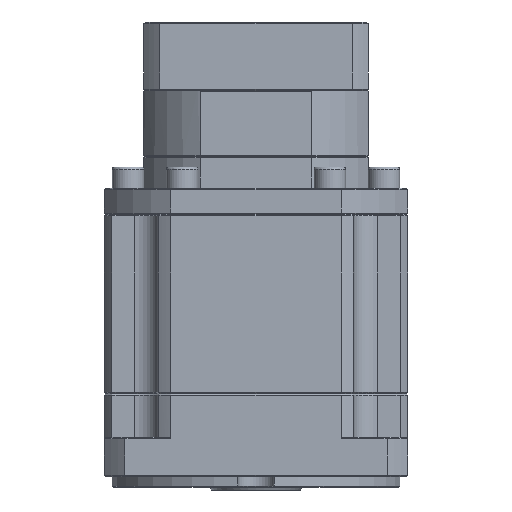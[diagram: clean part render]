
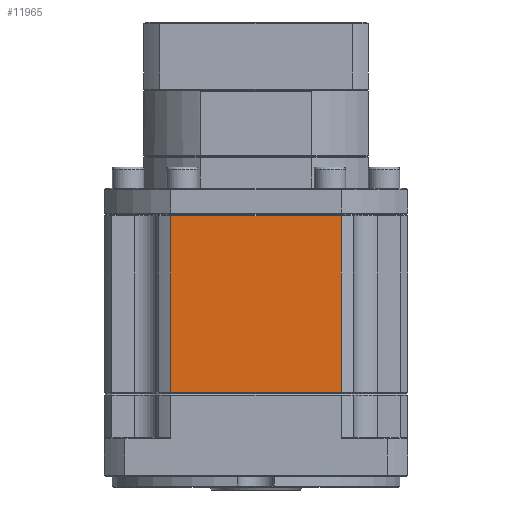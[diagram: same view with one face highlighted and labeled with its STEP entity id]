
A CAD part, left-side view. The second image highlights one B-rep face of the part: STEP entity #11965.
In plain terms, the highlighted planar face has unit normal (-1, 0, 0).
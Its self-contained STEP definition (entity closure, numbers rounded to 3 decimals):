
#472 = VECTOR ( 'NONE', #35817, 1000. ) ;
#2368 = EDGE_CURVE ( 'NONE', #4739, #24652, #77906, .T. ) ;
#4739 = VERTEX_POINT ( 'NONE', #73842 ) ;
#5819 = DIRECTION ( 'NONE',  ( 0., 0., 1. ) ) ;
#10848 = CARTESIAN_POINT ( 'NONE',  ( 11.251, 72.454, -72.908 ) ) ;
#11965 = ADVANCED_FACE ( 'NONE', ( #87002 ), #56215, .F. ) ;
#13056 = VERTEX_POINT ( 'NONE', #39111 ) ;
#20346 = DIRECTION ( 'NONE',  ( 0., -1., 0. ) ) ;
#24652 = VERTEX_POINT ( 'NONE', #95421 ) ;
#26161 = EDGE_LOOP ( 'NONE', ( #60780, #103608, #64823, #53055 ) ) ;
#35817 = DIRECTION ( 'NONE',  ( 0., 0., -1. ) ) ;
#39111 = CARTESIAN_POINT ( 'NONE',  ( 11.251, 40.054, -139.908 ) ) ;
#42742 = EDGE_CURVE ( 'NONE', #13056, #89773, #122457, .T. ) ;
#46358 = DIRECTION ( 'NONE',  ( 1., 0., 0. ) ) ;
#52568 = AXIS2_PLACEMENT_3D ( 'NONE', #108141, #46358, #117910 ) ;
#53055 = ORIENTED_EDGE ( 'NONE', *, *, #93525, .F. ) ;
#56215 = PLANE ( 'NONE',  #52568 ) ;
#56586 = LINE ( 'NONE', #88186, #120631 ) ;
#57603 = EDGE_CURVE ( 'NONE', #24652, #13056, #85341, .T. ) ;
#60780 = ORIENTED_EDGE ( 'NONE', *, *, #42742, .F. ) ;
#62759 = CARTESIAN_POINT ( 'NONE',  ( 11.251, 14.954, -139.908 ) ) ;
#64823 = ORIENTED_EDGE ( 'NONE', *, *, #2368, .F. ) ;
#73842 = CARTESIAN_POINT ( 'NONE',  ( 11.251, 104.854, -72.908 ) ) ;
#77906 = LINE ( 'NONE', #10848, #130572 ) ;
#85341 = LINE ( 'NONE', #97551, #472 ) ;
#87002 = FACE_OUTER_BOUND ( 'NONE', #26161, .T. ) ;
#88186 = CARTESIAN_POINT ( 'NONE',  ( 11.251, 104.854, -72.408 ) ) ;
#89773 = VERTEX_POINT ( 'NONE', #94596 ) ;
#93525 = EDGE_CURVE ( 'NONE', #89773, #4739, #56586, .T. ) ;
#94596 = CARTESIAN_POINT ( 'NONE',  ( 11.251, 104.854, -139.908 ) ) ;
#95421 = CARTESIAN_POINT ( 'NONE',  ( 11.251, 40.054, -72.908 ) ) ;
#97551 = CARTESIAN_POINT ( 'NONE',  ( 11.251, 40.054, -72.408 ) ) ;
#100069 = VECTOR ( 'NONE', #113780, 1000. ) ;
#103608 = ORIENTED_EDGE ( 'NONE', *, *, #57603, .F. ) ;
#108141 = CARTESIAN_POINT ( 'NONE',  ( 11.251, 14.954, -72.408 ) ) ;
#113780 = DIRECTION ( 'NONE',  ( 0., 1., 0. ) ) ;
#117910 = DIRECTION ( 'NONE',  ( 0., 1., 0. ) ) ;
#120631 = VECTOR ( 'NONE', #5819, 1000. ) ;
#122457 = LINE ( 'NONE', #62759, #100069 ) ;
#130572 = VECTOR ( 'NONE', #20346, 1000. ) ;
